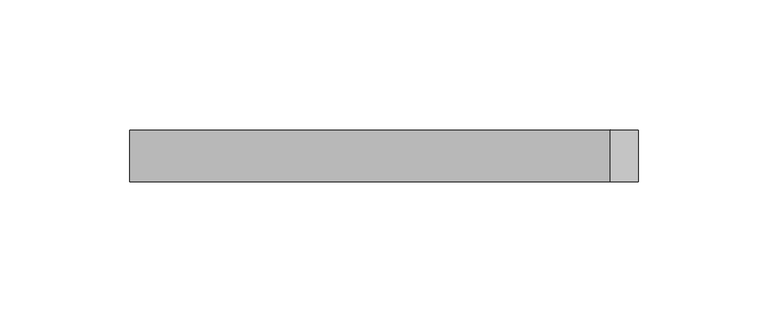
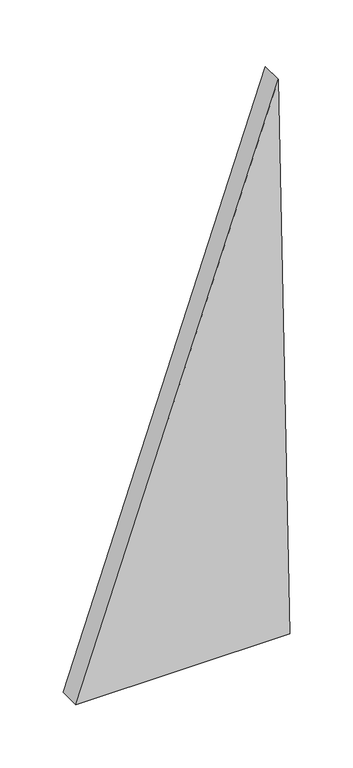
"""IFC4 building model written with IfcOpenShell, lengths in millimetres: plate geometry, 空系统嵌板 : 空."""

from ifc_helpers import new_model, si_unit, frame, origin, place, context, project, spatial, polyline, outline, extrude, source, transform, mapped, element, save


def plate_f97c0013(model_context):
    return source(origin(), model_context, "Body", "SweptSolid", [
        extrude(outline(polyline([(0.0, -97.9251153), (0.2180909, 97.9251153), (540.2908546, 87.2394341), (0.0, -97.9251153)])), frame((0.0, -10.0, 0.0), z_axis=(0.0, 1.0, 0.0), x_axis=(0.0, 0.0, 1.0)), (0.0, 0.0, 1.0), 20.0),
    ])


if __name__ == "__main__":
    model = new_model("IFC4")
    model_context = context("Model", 3, world=origin())
    ifc_project = project(units=[si_unit("LENGTHUNIT", "METRE", prefix="MILLI")], contexts=[model_context])
    site = spatial("IfcSite", under=ifc_project)
    building = spatial("IfcBuilding", under=site)
    placement = place(None, origin())
    plate_shape = plate_f97c0013(model_context)
    element("IfcPlate", 1, ObjectType="空系统嵌板 : 空", at=placement, inside=building, context=model_context, shape_type="MappedRepresentation", body=[
        mapped(plate_shape, transform((0.0, 0.0, 0.0), x_axis=(1.0, 0.0, 0.0), y_axis=(0.0, 1.0, 0.0), z_axis=(0.0, 0.0, 1.0))),
    ])
    save(model, "model.ifc")
